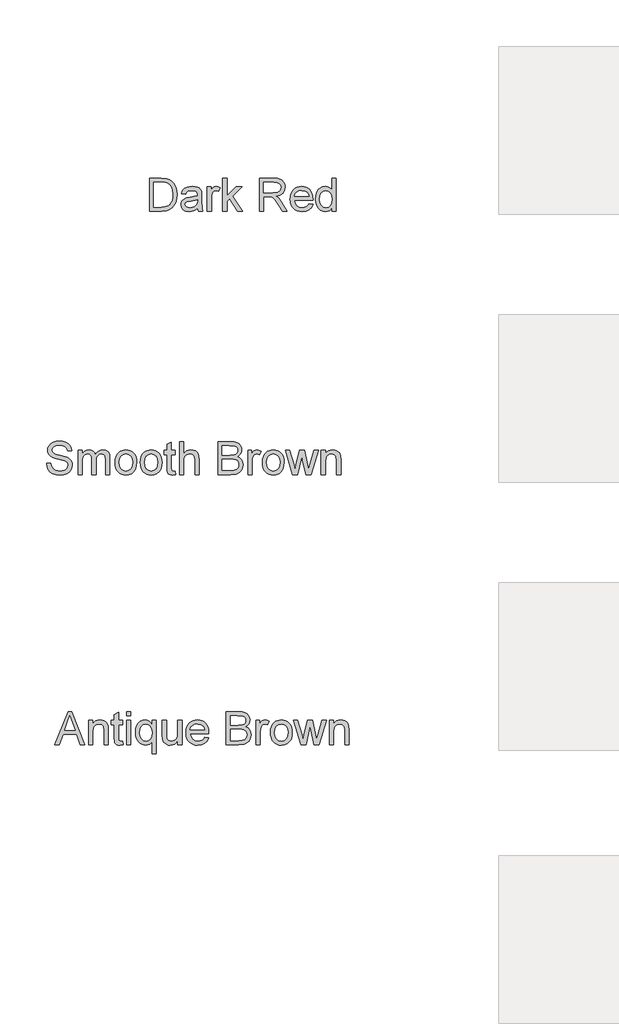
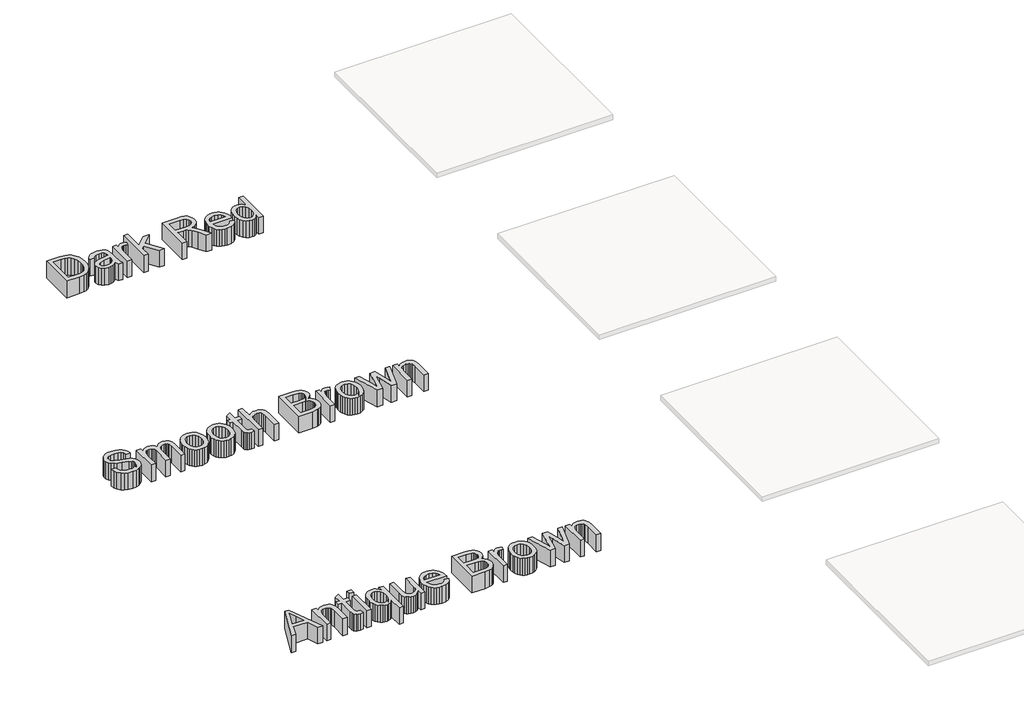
# One storey, part 2 of 6: 3 proxies.
"""IFC4 building model written with IfcOpenShell, lengths in millimetres."""

from ifc_helpers import new_model, si_unit, frame, origin, place, context, project, spatial, polyline, outline, extrude, element, save

model = new_model("IFC4")

# Units and contexts
model_context = context("Model", 3, world=origin())
ifc_project = project(units=[si_unit("LENGTHUNIT", "METRE", prefix="MILLI")], contexts=[model_context])

# Site, building, storey
site = spatial("IfcSite", under=ifc_project)
building = spatial("IfcBuilding", under=site)
storey = spatial("IfcBuildingStorey", under=building, Name="Marley Concrete Interlocking", Elevation=3000.0)

# Proxies
placement = place(None, origin())
element("IfcBuildingElementProxy", 1, Name="600mm Arial", ObjectType="600mm Arial", at=placement, inside=storey, context=model_context, shape_type="SweptSolid", body=[
    extrude(outline(polyline([(-15157.1501694, -6426.6948354), (-15039.2415155, -6131.31022), (-15007.7992078, -6131.31022), (-14889.890554, -6426.6948354), (-14928.9049771, -6426.6948354), (-14962.7270924, -6334.3871431), (-15084.3857463, -6334.3871431), (-15118.1357463, -6426.6948354), (-15157.1501694, -6426.6948354)]), holes=[polyline([(-15070.828054, -6297.4640662), (-14976.2126694, -6297.4640662), (-15002.8232463, -6224.8438739), (-15023.5203617, -6168.233297), (-15041.9097848, -6218.49772), (-15070.828054, -6297.4640662)])]), frame((0.0, 0.0, 3000.0), z_axis=(0.0, 0.0, 1.0), x_axis=(1.0, 0.0, 0.0)), (0.0, 0.0, 1.0), 150.0),
    extrude(outline(polyline([(-14855.0588232, -6426.6948354), (-14855.0588232, -6209.7717585), (-14818.1357463, -6209.7717585), (-14818.1357463, -6240.06022), (-14805.3082223, -6224.7897873), (-14789.9025732, -6213.8823354), (-14771.9187992, -6207.3378643), (-14751.3569001, -6205.1563739), (-14733.1567799, -6206.9141864), (-14716.4891117, -6212.1876239), (-14702.5888713, -6220.3186335), (-14692.6910348, -6230.6491623), (-14681.6213232, -6257.8006046), (-14679.6742078, -6293.49772), (-14679.6742078, -6426.6948354), (-14716.5972848, -6426.6948354), (-14716.5972848, -6298.4736816), (-14720.8520924, -6265.8054123), (-14726.7385107, -6256.0788498), (-14735.8881501, -6248.5337777), (-14747.6159146, -6243.6930325), (-14761.2367078, -6242.0794508), (-14782.8623088, -6245.7032489), (-14801.296804, -6256.5746431), (-14808.6638412, -6265.4493426), (-14813.9260107, -6277.5782489), (-14818.1357463, -6311.5986816), (-14818.1357463, -6426.6948354), (-14855.0588232, -6426.6948354)])), frame((0.0, 0.0, 3000.0), z_axis=(0.0, 0.0, 1.0), x_axis=(1.0, 0.0, 0.0)), (0.0, 0.0, 1.0), 150.0),
    extrude(outline(polyline([(-14550.4434386, -6395.9015662), (-14545.828054, -6427.7765662), (-14573.4482463, -6431.31022), (-14591.1706021, -6429.7777681), (-14604.3857463, -6425.1804123), (-14613.7246886, -6418.0950758), (-14619.8184386, -6409.0986816), (-14623.171804, -6393.6479604), (-14624.2895924, -6367.1996431), (-14624.2895924, -6246.6948354), (-14651.9819001, -6246.6948354), (-14651.9819001, -6209.7717585), (-14624.2895924, -6209.7717585), (-14624.2895924, -6157.0554123), (-14587.3665155, -6135.3486816), (-14587.3665155, -6209.7717585), (-14550.4434386, -6209.7717585), (-14550.4434386, -6246.6948354), (-14587.3665155, -6246.6948354), (-14587.3665155, -6366.1179123), (-14585.4194001, -6385.1563739), (-14579.109304, -6391.8991623), (-14566.5251694, -6394.3871431), (-14550.4434386, -6395.9015662)])), frame((0.0, 0.0, 3000.0), z_axis=(0.0, 0.0, 1.0), x_axis=(1.0, 0.0, 0.0)), (0.0, 0.0, 1.0), 150.0),
    extrude(outline(polyline([(-14513.5203617, -6426.6948354), (-14513.5203617, -6209.7717585), (-14476.5972848, -6209.7717585), (-14476.5972848, -6426.6948354), (-14513.5203617, -6426.6948354)])), frame((0.0, 0.0, 3000.0), z_axis=(0.0, 0.0, 1.0), x_axis=(1.0, 0.0, 0.0)), (0.0, 0.0, 1.0), 150.0),
    extrude(outline(polyline([(-14513.5203617, -6168.233297), (-14513.5203617, -6131.31022), (-14476.5972848, -6131.31022), (-14476.5972848, -6168.233297), (-14513.5203617, -6168.233297)])), frame((0.0, 0.0, 3000.0), z_axis=(0.0, 0.0, 1.0), x_axis=(1.0, 0.0, 0.0)), (0.0, 0.0, 1.0), 150.0),
    extrude(outline(polyline([(-14287.3665155, -6509.7717585), (-14287.3665155, -6397.1275277), (-14297.4085828, -6410.5950758), (-14310.8040155, -6421.5746431), (-14326.3448809, -6428.8763258), (-14342.8232463, -6431.31022), (-14361.0278737, -6429.3878943), (-14377.9254098, -6423.6209171), (-14393.5158545, -6414.0092885), (-14407.7992078, -6400.5530085), (-14419.7252896, -6383.7478703), (-14428.2439194, -6364.0896671), (-14433.3550973, -6341.5783991), (-14435.0588232, -6316.2140662), (-14432.3544963, -6285.294595), (-14424.2415155, -6257.7284893), (-14410.9903136, -6234.9760854), (-14392.8713232, -6218.49772), (-14371.3268521, -6208.4917104), (-14347.7992078, -6205.1563739), (-14329.6081021, -6207.7435133), (-14313.4722848, -6215.5049316), (-14299.3917559, -6228.4406287), (-14287.3665155, -6246.5506046), (-14287.3665155, -6209.7717585), (-14250.4434386, -6209.7717585), (-14250.4434386, -6509.7717585), (-14287.3665155, -6509.7717585)]), holes=[polyline([(-14398.1357463, -6318.233297), (-14393.9800973, -6351.5506046), (-14381.5131501, -6375.3486816), (-14363.2409146, -6389.6275277), (-14341.6694001, -6394.3871431), (-14320.999328, -6389.8619027), (-14303.4121886, -6376.2861816), (-14291.3779338, -6353.4616623), (-14287.3665155, -6321.1900277), (-14291.5942799, -6286.6918306), (-14304.2775732, -6261.9472393), (-14322.6579819, -6247.0463979), (-14343.9770924, -6242.0794508), (-14364.8995684, -6246.7038498), (-14382.3785348, -6260.577047), (-14394.1964434, -6284.2399075), (-14398.1357463, -6318.233297)])]), frame((0.0, 0.0, 3000.0), z_axis=(0.0, 0.0, 1.0), x_axis=(1.0, 0.0, 0.0)), (0.0, 0.0, 1.0), 150.0),
    extrude(outline(polyline([(-14056.5972848, -6426.6948354), (-14056.5972848, -6389.4111816), (-14069.9566598, -6407.7420109), (-14085.515554, -6420.8354604), (-14103.2739674, -6428.6915301), (-14123.2319001, -6431.31022), (-14141.2156742, -6429.4712777), (-14157.9554578, -6423.9544508), (-14171.999929, -6415.6611816), (-14181.8977655, -6405.4929123), (-14192.8953617, -6378.3054123), (-14195.0588232, -6343.9784893), (-14195.0588232, -6209.7717585), (-14158.1357463, -6209.7717585), (-14158.1357463, -6326.5986816), (-14155.9001694, -6364.2429123), (-14150.5185588, -6376.8000037), (-14141.296804, -6386.3462777), (-14128.8478857, -6392.3769268), (-14113.7847848, -6394.3871431), (-14097.8562992, -6392.3318546), (-14082.9554578, -6386.1659893), (-14070.6687992, -6376.4574556), (-14062.5828617, -6363.7741623), (-14058.093679, -6346.4033691), (-14056.5972848, -6322.6323354), (-14056.5972848, -6209.7717585), (-14019.6742078, -6209.7717585), (-14019.6742078, -6426.6948354), (-14056.5972848, -6426.6948354)])), frame((0.0, 0.0, 3000.0), z_axis=(0.0, 0.0, 1.0), x_axis=(1.0, 0.0, 0.0)), (0.0, 0.0, 1.0), 150.0),
    extrude(outline(polyline([(-13817.0299771, -6362.0794508), (-13780.828054, -6366.6948354), (-13793.8719242, -6393.9724796), (-13814.6862271, -6414.3631046), (-13842.8022126, -6427.0734412), (-13877.7511309, -6431.31022), (-13900.6612872, -6429.4825458), (-13921.0744482, -6423.9995229), (-13938.9906141, -6414.8611515), (-13954.4097848, -6402.0674316), (-13966.8091237, -6385.9744328), (-13975.6657944, -6366.9382248), (-13980.9797968, -6344.9588078), (-13982.7511309, -6320.0361816), (-13980.9617679, -6294.2684532), (-13975.593679, -6271.5566143), (-13966.6468641, -6251.9006647), (-13954.1213232, -6235.3006046), (-13938.7427174, -6222.1125037), (-13921.2367078, -6212.6924316), (-13901.6032944, -6207.0403883), (-13879.8424771, -6205.1563739), (-13858.7825311, -6207.0358811), (-13839.7373088, -6212.6744027), (-13822.70681, -6222.0719388), (-13807.6910348, -6235.2284893), (-13795.433673, -6251.7924917), (-13786.6784146, -6271.4123835), (-13781.4252595, -6294.0881647), (-13779.6742078, -6319.8198354), (-13779.890554, -6329.7717585), (-13945.828054, -6329.7717585), (-13939.436828, -6357.4099796), (-13924.5900732, -6377.7284893), (-13903.1627896, -6390.2224796), (-13877.0299771, -6394.3871431), (-13857.3785348, -6392.4580566), (-13840.828054, -6386.670797), (-13827.3785348, -6376.6647873), (-13817.0299771, -6362.0794508)]), holes=[polyline([(-13945.828054, -6292.8486816), (-13816.5972848, -6292.8486816), (-13821.5912751, -6273.34147), (-13831.3809386, -6259.3871431), (-13852.9073809, -6246.4063739), (-13879.9867078, -6242.0794508), (-13904.8755299, -6245.5319748), (-13925.4554578, -6255.889547), (-13939.7613473, -6272.0343787), (-13945.828054, -6292.8486816)])]), frame((0.0, 0.0, 3000.0), z_axis=(0.0, 0.0, 1.0), x_axis=(1.0, 0.0, 0.0)), (0.0, 0.0, 1.0), 150.0),
    extrude(outline(polyline([(-13622.7511309, -6426.6948354), (-13622.7511309, -6131.31022), (-13510.0347848, -6131.31022), (-13479.0341838, -6133.482696), (-13454.8304578, -6140.0001239), (-13436.2787751, -6151.0247633), (-13422.234304, -6166.7188739), (-13413.3911549, -6185.1804123), (-13410.4434386, -6204.5073354), (-13412.9224049, -6222.2927921), (-13420.359304, -6239.014547), (-13432.8082223, -6253.6449556), (-13450.3232463, -6265.1563739), (-13429.4007703, -6276.0818546), (-13413.9410348, -6292.7044508), (-13404.3947607, -6313.9244027), (-13401.2126694, -6338.6419508), (-13403.3851453, -6359.2399075), (-13409.9025732, -6378.34147), (-13419.6291357, -6394.5854604), (-13431.4290155, -6406.6107008), (-13445.8791357, -6415.3186335), (-13463.5564194, -6421.6107008), (-13510.9001694, -6426.6948354), (-13622.7511309, -6426.6948354)]), holes=[polyline([(-13585.828054, -6251.31022), (-13518.4001694, -6251.31022), (-13479.0251694, -6248.1371431), (-13465.2421165, -6242.6653883), (-13455.3352655, -6234.4712777), (-13449.358703, -6223.6810133), (-13447.3665155, -6210.420797), (-13449.2234867, -6197.5482008), (-13454.7944001, -6186.3342585), (-13463.8268521, -6177.5812537), (-13476.0684386, -6172.09147), (-13523.5203617, -6168.233297), (-13585.828054, -6168.233297), (-13585.828054, -6251.31022)]), polyline([(-13585.828054, -6389.7717585), (-13510.1069001, -6389.7717585), (-13482.703054, -6388.3294508), (-13459.5179578, -6380.2885854), (-13444.1573809, -6363.8823354), (-13439.6411549, -6352.2897873), (-13438.1357463, -6339.0025277), (-13439.9025732, -6323.5698354), (-13445.203054, -6310.3006046), (-13454.4608665, -6299.9250037), (-13468.0996886, -6293.1732008), (-13487.4175973, -6289.4682729), (-13513.7126694, -6288.233297), (-13585.828054, -6288.233297), (-13585.828054, -6389.7717585)])]), frame((0.0, 0.0, 3000.0), z_axis=(0.0, 0.0, 1.0), x_axis=(1.0, 0.0, 0.0)), (0.0, 0.0, 1.0), 150.0),
    extrude(outline(polyline([(-13355.0588232, -6426.6948354), (-13355.0588232, -6209.7717585), (-13322.7511309, -6209.7717585), (-13322.7511309, -6241.8631046), (-13310.8160348, -6223.2573354), (-13299.8184386, -6212.295797), (-13288.7847848, -6206.9412296), (-13276.7415155, -6205.1563739), (-13258.3520924, -6208.0049316), (-13239.6742078, -6216.5506046), (-13252.0059386, -6249.6515662), (-13264.9867078, -6243.9724796), (-13277.9674771, -6242.0794508), (-13288.9921165, -6243.9003643), (-13298.8448809, -6249.3631046), (-13306.8046165, -6258.0530085), (-13312.1501694, -6269.5554123), (-13316.6393521, -6290.1804123), (-13318.1357463, -6312.6804123), (-13318.1357463, -6426.6948354), (-13355.0588232, -6426.6948354)])), frame((0.0, 0.0, 3000.0), z_axis=(0.0, 0.0, 1.0), x_axis=(1.0, 0.0, 0.0)), (0.0, 0.0, 1.0), 150.0),
    extrude(outline(polyline([(-13225.828054, -6318.233297), (-13223.8313593, -6290.1398474), (-13217.8412751, -6265.9316143), (-13207.8578016, -6245.6085974), (-13193.8809386, -6229.170797), (-13179.8094242, -6218.6644869), (-13164.2775732, -6211.1599796), (-13147.2853857, -6206.6572753), (-13128.8328617, -6205.1563739), (-13108.4625191, -6206.9840482), (-13090.0437992, -6212.467071), (-13073.5767018, -6221.6054424), (-13059.0612271, -6234.3991623), (-13047.2140215, -6250.4155385), (-13038.7517319, -6269.2218787), (-13033.6743581, -6290.8181828), (-13031.9819001, -6315.2044508), (-13034.9746886, -6352.5061335), (-13043.953054, -6380.9015662), (-13058.655578, -6402.1665902), (-13078.8208424, -6418.077047), (-13102.7721646, -6428.0019268), (-13128.8328617, -6431.31022), (-13149.5006802, -6429.4893066), (-13168.0906742, -6424.0265662), (-13184.6028436, -6414.9219989), (-13199.0371886, -6402.1756046), (-13210.7581922, -6386.0037296), (-13219.1303376, -6366.62272), (-13224.1536249, -6344.0325758), (-13225.828054, -6318.233297)]), holes=[polyline([(-13188.9049771, -6318.1611816), (-13184.6321405, -6351.5776479), (-13171.8136309, -6375.3847393), (-13152.5227655, -6389.6365421), (-13128.8328617, -6394.3871431), (-13105.2511309, -6389.6094989), (-13085.9963232, -6375.2765662), (-13073.1778136, -6351.15397), (-13068.9049771, -6317.0073354), (-13073.2048569, -6284.5644268), (-13086.1044963, -6261.0818546), (-13105.3863473, -6246.8300518), (-13128.8328617, -6242.0794508), (-13152.5227655, -6246.8120229), (-13171.8136309, -6261.0097393), (-13184.6321405, -6284.7627441), (-13188.9049771, -6318.1611816)])]), frame((0.0, 0.0, 3000.0), z_axis=(0.0, 0.0, 1.0), x_axis=(1.0, 0.0, 0.0)), (0.0, 0.0, 1.0), 150.0),
    extrude(outline(polyline([(-12954.4578617, -6426.6948354), (-13020.4434386, -6209.7717585), (-12982.078054, -6209.7717585), (-12944.6501694, -6336.3342585), (-12933.4722848, -6381.5506046), (-12924.3136309, -6337.9929123), (-12894.5299771, -6209.7717585), (-12850.5395924, -6209.7717585), (-12820.9001694, -6337.6323354), (-12812.7511309, -6377.0794508), (-12801.0684386, -6335.4688739), (-12763.5684386, -6209.7717585), (-12725.0588232, -6209.7717585), (-12791.5492078, -6426.6948354), (-12836.1886309, -6426.6948354), (-12864.5299771, -6299.483297), (-12872.7511309, -6259.8198354), (-12909.3136309, -6426.6948354), (-12954.4578617, -6426.6948354)])), frame((0.0, 0.0, 3000.0), z_axis=(0.0, 0.0, 1.0), x_axis=(1.0, 0.0, 0.0)), (0.0, 0.0, 1.0), 150.0),
    extrude(outline(polyline([(-12699.6742078, -6426.6948354), (-12699.6742078, -6209.7717585), (-12662.7511309, -6209.7717585), (-12662.7511309, -6240.06022), (-12649.9236069, -6224.7897873), (-12634.5179578, -6213.8823354), (-12616.5341838, -6207.3378643), (-12595.9722848, -6205.1563739), (-12577.7721646, -6206.9141864), (-12561.1044963, -6212.1876239), (-12547.2042559, -6220.3186335), (-12537.3064194, -6230.6491623), (-12526.2367078, -6257.8006046), (-12524.2895924, -6293.49772), (-12524.2895924, -6426.6948354), (-12561.2126694, -6426.6948354), (-12561.2126694, -6298.4736816), (-12565.4674771, -6265.8054123), (-12571.3538953, -6256.0788498), (-12580.5035348, -6248.5337777), (-12592.2312992, -6243.6930325), (-12605.8520924, -6242.0794508), (-12627.4776934, -6245.7032489), (-12645.9121886, -6256.5746431), (-12653.2792259, -6265.4493426), (-12658.5413953, -6277.5782489), (-12662.7511309, -6311.5986816), (-12662.7511309, -6426.6948354), (-12699.6742078, -6426.6948354)])), frame((0.0, 0.0, 3000.0), z_axis=(0.0, 0.0, 1.0), x_axis=(1.0, 0.0, 0.0)), (0.0, 0.0, 1.0), 150.0),
])
element("IfcBuildingElementProxy", 2, Name="600mm Arial", ObjectType="600mm Arial", at=placement, inside=storey, context=model_context, shape_type="SweptSolid", body=[
    extrude(outline(polyline([(-14309.1097582, -1651.9648917), (-14309.1097582, -1356.5802763), (-14207.2107198, -1356.5802763), (-14154.4943736, -1360.835084), (-14130.9487005, -1369.038209), (-14111.0809121, -1381.9648917), (-14090.6542294, -1404.4648917), (-14076.1049505, -1432.4456609), (-14067.3970178, -1465.366334), (-14064.4943736, -1502.6860455), (-14066.4595178, -1534.3897715), (-14072.3549505, -1562.2894109), (-14081.3333159, -1586.0424157), (-14092.5472582, -1605.3062378), (-14105.4559121, -1620.5135696), (-14119.5184121, -1632.0971032), (-14135.6632438, -1640.6878484), (-14154.8188928, -1646.9168148), (-14202.3068736, -1651.9648917), (-14309.1097582, -1651.9648917)]), holes=[polyline([(-14272.1866813, -1615.0418148), (-14206.8501428, -1615.0418148), (-14179.8249025, -1613.7076802), (-14159.3261044, -1609.7052763), (-14143.8573544, -1603.2689782), (-14131.9222582, -1594.6331609), (-14119.0947342, -1578.6505888), (-14109.4583159, -1557.9624878), (-14103.4276669, -1532.4787138), (-14101.4174505, -1502.1091225), (-14105.3567534, -1461.8687378), (-14117.1746621, -1432.1571994), (-14134.6355996, -1411.7485455), (-14155.503989, -1399.4168148), (-14176.7419698, -1394.9817186), (-14207.8597582, -1393.5033532), (-14272.1866813, -1393.5033532), (-14272.1866813, -1615.0418148)])]), frame((0.0, 0.0, 3000.0), z_axis=(0.0, 0.0, 1.0), x_axis=(1.0, 0.0, 0.0)), (0.0, 0.0, 1.0), 150.0),
    extrude(outline(polyline([(-13879.878989, -1624.272584), (-13897.520215, -1639.3987859), (-13915.6842775, -1649.2966225), (-13934.78584, -1654.7593628), (-13955.2395659, -1656.5802763), (-13986.0959361, -1652.1992667), (-14008.8573544, -1639.0562378), (-14022.8928111, -1619.0983052), (-14027.5712967, -1594.272584), (-14025.8044698, -1578.9660936), (-14020.503989, -1565.0658532), (-14012.3279073, -1553.1668148), (-14001.9342775, -1543.8639302), (-13976.0809121, -1531.7485455), (-13944.1337967, -1526.1956609), (-13906.3813928, -1520.3543148), (-13880.0953352, -1513.5033532), (-13879.878989, -1505.2821994), (-13882.4210563, -1488.803834), (-13890.0472582, -1478.022584), (-13907.1025467, -1470.0177763), (-13930.8645659, -1467.3495071), (-13952.8597582, -1469.1253484), (-13968.2203352, -1474.4528725), (-13978.6950948, -1484.3056369), (-13986.0328352, -1499.6571994), (-14022.9559121, -1495.0418148), (-14016.5466573, -1474.8495071), (-14006.9823544, -1458.9841225), (-13993.3705755, -1446.850709), (-13974.8188928, -1437.8543148), (-13952.12959, -1432.2834013), (-13926.1049505, -1430.4264302), (-13901.144013, -1432.0670552), (-13881.3573544, -1436.9889302), (-13866.4384842, -1444.3897715), (-13856.0809121, -1453.4672955), (-13849.2119217, -1464.6902523), (-13844.7587967, -1478.5273917), (-13842.9559121, -1510.835084), (-13842.9559121, -1556.772584), (-13841.0809121, -1620.9192186), (-13833.7251428, -1651.9648917), (-13870.6482198, -1651.9648917), (-13879.878989, -1624.272584)]), holes=[polyline([(-13879.878989, -1550.4264302), (-13939.4462967, -1561.7485455), (-13971.2131236, -1567.7341225), (-13985.6001428, -1577.4696994), (-13990.6482198, -1591.6764302), (-13987.8988207, -1602.6559975), (-13979.6506236, -1611.6523917), (-13966.0839169, -1617.6559975), (-13947.378989, -1619.6571994), (-13927.5472582, -1617.4486657), (-13910.0232198, -1610.8230648), (-13895.816489, -1601.0604446), (-13885.9366813, -1589.4408532), (-13881.5556717, -1577.4696994), (-13880.0953352, -1560.8831609), (-13879.878989, -1550.4264302)])]), frame((0.0, 0.0, 3000.0), z_axis=(0.0, 0.0, 1.0), x_axis=(1.0, 0.0, 0.0)), (0.0, 0.0, 1.0), 150.0),
    extrude(outline(polyline([(-13792.1866813, -1651.9648917), (-13792.1866813, -1435.0418148), (-13759.878989, -1435.0418148), (-13759.878989, -1467.1331609), (-13747.9438928, -1448.5273917), (-13736.9462967, -1437.5658532), (-13725.9126428, -1432.2112859), (-13713.8693736, -1430.4264302), (-13695.4799505, -1433.2749878), (-13676.8020659, -1441.8206609), (-13689.1337967, -1474.9216225), (-13702.1145659, -1469.2425359), (-13715.0953352, -1467.3495071), (-13726.1199746, -1469.1704205), (-13735.972739, -1474.6331609), (-13743.9324746, -1483.3230648), (-13749.2780275, -1494.8254686), (-13753.7672102, -1515.4504686), (-13755.2636044, -1537.9504686), (-13755.2636044, -1651.9648917), (-13792.1866813, -1651.9648917)])), frame((0.0, 0.0, 3000.0), z_axis=(0.0, 0.0, 1.0), x_axis=(1.0, 0.0, 0.0)), (0.0, 0.0, 1.0), 150.0),
    extrude(outline(polyline([(-13653.7251428, -1651.9648917), (-13653.7251428, -1356.5802763), (-13616.8020659, -1356.5802763), (-13616.8020659, -1515.3062378), (-13534.0136044, -1435.0418148), (-13482.9559121, -1435.0418148), (-13566.753989, -1516.3158532), (-13478.3405275, -1651.9648917), (-13521.4655275, -1651.9648917), (-13593.2203352, -1541.9889302), (-13616.8020659, -1564.8495071), (-13616.8020659, -1651.9648917), (-13653.7251428, -1651.9648917)])), frame((0.0, 0.0, 3000.0), z_axis=(0.0, 0.0, 1.0), x_axis=(1.0, 0.0, 0.0)), (0.0, 0.0, 1.0), 150.0),
    extrude(outline(polyline([(-13326.0328352, -1651.9648917), (-13326.0328352, -1356.5802763), (-13198.7491813, -1356.5802763), (-13164.5394457, -1358.5724638), (-13139.6506236, -1364.5490263), (-13121.4595178, -1375.5826802), (-13107.3429313, -1392.7461417), (-13098.2834361, -1414.0291946), (-13095.2636044, -1437.4216225), (-13100.2666092, -1466.5201802), (-13115.2756236, -1490.6427763), (-13126.6450647, -1500.4730047), (-13140.7413688, -1508.3290744), (-13177.1145659, -1518.1187378), (-13156.128989, -1533.9120071), (-13126.2011044, -1571.9168148), (-13076.9462967, -1651.9648917), (-13119.8549505, -1651.9648917), (-13158.2924505, -1590.7389302), (-13186.0568736, -1550.210084), (-13205.5640852, -1531.0634494), (-13223.1241813, -1524.0321994), (-13244.5424505, -1522.7341225), (-13289.1097582, -1522.7341225), (-13289.1097582, -1651.9648917), (-13326.0328352, -1651.9648917)]), holes=[polyline([(-13289.1097582, -1485.8110455), (-13206.4655275, -1485.8110455), (-13182.7305515, -1484.5039542), (-13164.3140852, -1480.5826802), (-13150.4499025, -1473.7858052), (-13140.3717775, -1463.8519109), (-13134.2329553, -1451.835685), (-13132.1866813, -1438.7918148), (-13136.0899265, -1420.7809975), (-13147.7996621, -1406.2677763), (-13167.9468977, -1396.694459), (-13197.1626428, -1393.5033532), (-13289.1097582, -1393.5033532), (-13289.1097582, -1485.8110455)])]), frame((0.0, 0.0, 3000.0), z_axis=(0.0, 0.0, 1.0), x_axis=(1.0, 0.0, 0.0)), (0.0, 0.0, 1.0), 150.0),
    extrude(outline(polyline([(-12883.3886044, -1587.3495071), (-12847.1866813, -1591.9648917), (-12860.2305515, -1619.2425359), (-12881.0448544, -1639.6331609), (-12909.16084, -1652.3434975), (-12944.1097582, -1656.5802763), (-12967.0199145, -1654.752602), (-12987.4330755, -1649.2695792), (-13005.3492414, -1640.1312078), (-13020.7684121, -1627.3374878), (-13033.167751, -1611.244489), (-13042.0244217, -1592.2082811), (-13047.3384241, -1570.228864), (-13049.1097582, -1545.3062378), (-13047.3203953, -1519.5385095), (-13041.9523063, -1496.8266705), (-13033.0054914, -1477.170721), (-13020.4799505, -1460.5706609), (-13005.1013448, -1447.38256), (-12987.5953352, -1437.9624878), (-12967.9619217, -1432.3104446), (-12946.2011044, -1430.4264302), (-12925.1411585, -1432.3059374), (-12906.0959361, -1437.944459), (-12889.0654373, -1447.3419951), (-12874.0496621, -1460.4985455), (-12861.7923003, -1477.0625479), (-12853.0370419, -1496.6824398), (-12847.7838868, -1519.358221), (-12846.0328352, -1545.0898917), (-12846.2491813, -1555.0418148), (-13012.1866813, -1555.0418148), (-13005.7954553, -1582.6800359), (-12990.9487005, -1602.9985455), (-12969.5214169, -1615.4925359), (-12943.3886044, -1619.6571994), (-12923.7371621, -1617.7281128), (-12907.1866813, -1611.9408532), (-12893.7371621, -1601.9348436), (-12883.3886044, -1587.3495071)]), holes=[polyline([(-13012.1866813, -1518.1187378), (-12882.9559121, -1518.1187378), (-12887.9499025, -1498.6115263), (-12897.7395659, -1484.6571994), (-12919.2660082, -1471.6764302), (-12946.3453352, -1467.3495071), (-12971.2341573, -1470.8020311), (-12991.8140852, -1481.1596032), (-13006.1199746, -1497.304435), (-13012.1866813, -1518.1187378)])]), frame((0.0, 0.0, 3000.0), z_axis=(0.0, 0.0, 1.0), x_axis=(1.0, 0.0, 0.0)), (0.0, 0.0, 1.0), 150.0),
    extrude(outline(polyline([(-12675.2636044, -1651.9648917), (-12675.2636044, -1617.1331609), (-12686.3107799, -1634.3912739), (-12699.6926909, -1646.7184975), (-12715.4093376, -1654.1148316), (-12733.4607198, -1656.5802763), (-12757.3309121, -1653.0105648), (-12779.1818736, -1642.3014302), (-12797.6794698, -1625.2010696), (-12811.4895659, -1602.4576802), (-12820.0893255, -1574.990733), (-12822.9559121, -1543.7196994), (-12820.3146861, -1512.8362859), (-12812.3910082, -1484.9456609), (-12799.1938928, -1461.6343628), (-12780.7323544, -1444.4889302), (-12758.4036284, -1433.9420552), (-12733.6049505, -1430.4264302), (-12715.5400467, -1432.9414542), (-12699.566489, -1440.4865263), (-12686.0268255, -1452.0520311), (-12675.2636044, -1466.6283532), (-12675.2636044, -1356.5802763), (-12638.3405275, -1356.5802763), (-12638.3405275, -1651.9648917), (-12675.2636044, -1651.9648917)]), holes=[polyline([(-12786.0328352, -1543.5754686), (-12781.8681717, -1576.9739061), (-12769.3741813, -1600.7269109), (-12751.2191332, -1614.9246273), (-12730.0712967, -1619.6571994), (-12708.9324746, -1615.1409734), (-12691.2371621, -1601.5922955), (-12679.2569938, -1578.7587619), (-12675.2636044, -1546.3879686), (-12679.3291092, -1510.9973436), (-12691.5256236, -1486.460084), (-12709.6716573, -1472.1271513), (-12731.5857198, -1467.3495071), (-12752.9499025, -1471.9378484), (-12770.4559121, -1485.7028725), (-12782.1386044, -1509.3477042), (-12786.0328352, -1543.5754686)])]), frame((0.0, 0.0, 3000.0), z_axis=(0.0, 0.0, 1.0), x_axis=(1.0, 0.0, 0.0)), (0.0, 0.0, 1.0), 150.0),
])
element("IfcBuildingElementProxy", 3, Name="600mm Arial", ObjectType="600mm Arial", at=placement, inside=storey, context=model_context, shape_type="SweptSolid", body=[
    extrude(outline(polyline([(-15232.4022779, -3908.0512446), (-15195.479201, -3908.0512446), (-15191.2424222, -3928.5410283), (-15183.5801625, -3945.0103792), (-15171.6270375, -3958.0812927), (-15154.5176625, -3968.3757638), (-15133.604201, -3975.0554513), (-15110.2388164, -3977.2820138), (-15089.6679029, -3975.5963167), (-15071.6570856, -3970.5392254), (-15057.0627347, -3962.5344177), (-15046.7412202, -3952.0055715), (-15040.6023981, -3939.9172302), (-15038.5561241, -3927.2339369), (-15040.088576, -3914.8751629), (-15044.6859318, -3904.1930715), (-15054.0248741, -3895.0794898), (-15069.7820856, -3887.4262446), (-15123.5441048, -3873.3276869), (-15158.8355712, -3863.997759), (-15181.416701, -3855.1185523), (-15199.7971097, -3842.6966773), (-15212.822951, -3827.6425908), (-15220.5843693, -3810.2808119), (-15223.1715087, -3790.93586), (-15219.9713885, -3769.310259), (-15210.3710279, -3749.1449946), (-15194.6228308, -3732.0536484), (-15172.979201, -3719.6498023), (-15146.9996337, -3712.1047302), (-15118.2436241, -3709.5897061), (-15087.0897779, -3712.2219177), (-15059.8301625, -3720.1185523), (-15037.4383356, -3733.1173504), (-15020.8878548, -3751.0560523), (-15010.4130952, -3772.8168696), (-15006.2484318, -3797.2820138), (-15043.1715087, -3797.2820138), (-15049.9503548, -3775.2507638), (-15064.0849702, -3759.3493215), (-15086.1703068, -3749.7219177), (-15116.8013164, -3746.5127831), (-15148.1534798, -3749.68586), (-15169.6618933, -3759.2050908), (-15182.1017972, -3773.2135042), (-15186.2484318, -3789.8541292), (-15183.3097298, -3804.0428311), (-15174.4936241, -3815.4550908), (-15153.6522779, -3825.6594177), (-15114.2051625, -3836.0800908), (-15048.8686241, -3854.6137446), (-15027.8199462, -3868.0091773), (-15013.135451, -3884.5416292), (-15004.5086481, -3904.0308119), (-15001.6330472, -3926.2964369), (-15004.9413404, -3949.0578552), (-15014.8662202, -3970.46711), (-15031.0020375, -3988.8925908), (-15052.9431433, -4002.7026869), (-15079.3283597, -4011.3294898), (-15108.7965087, -4014.2050908), (-15144.9713885, -4011.1041292), (-15174.7460279, -4001.8012446), (-15198.462975, -3986.2603792), (-15216.4647779, -3964.4454754), (-15228.0212683, -3937.8709561), (-15232.4022779, -3908.0512446)])), frame((0.0, 0.0, 3000.0), z_axis=(0.0, 0.0, 1.0), x_axis=(1.0, 0.0, 0.0)), (0.0, 0.0, 1.0), 150.0),
    extrude(outline(polyline([(-14950.8638164, -4009.5897061), (-14950.8638164, -3792.6666292), (-14913.9407395, -3792.6666292), (-14913.9407395, -3828.3637446), (-14902.8349702, -3811.966509), (-14888.5561241, -3799.1209561), (-14871.5909798, -3790.8186725), (-14852.4263164, -3788.0512446), (-14831.8914606, -3790.872759), (-14815.4311241, -3799.3373023), (-14803.135451, -3812.8859802), (-14795.0945856, -3830.9598984), (-14781.636052, -3812.1873624), (-14766.2844895, -3798.7784081), (-14749.0398981, -3790.7330355), (-14729.9022779, -3788.0512446), (-14702.1468693, -3792.513384), (-14681.6210279, -3805.8998023), (-14668.9377347, -3828.5710763), (-14664.7099702, -3860.8877831), (-14664.7099702, -4009.5897061), (-14701.6330472, -4009.5897061), (-14701.6330472, -3876.7531677), (-14705.0585279, -3845.9238408), (-14709.8722298, -3837.4232398), (-14717.4623741, -3830.7435523), (-14727.2249943, -3826.4166292), (-14738.5561241, -3824.9743215), (-14758.5591289, -3828.670235), (-14774.8662202, -3839.7579754), (-14785.7105712, -3858.9947542), (-14789.3253548, -3887.1377831), (-14789.3253548, -4009.5897061), (-14826.2484318, -4009.5897061), (-14826.2484318, -3872.6425908), (-14828.38485, -3851.7651869), (-14834.7941048, -3836.87336), (-14846.0711481, -3827.9490811), (-14862.8109318, -3824.9743215), (-14877.0356914, -3826.9574946), (-14890.1426625, -3832.9070138), (-14900.9599702, -3842.6786484), (-14908.3157395, -3856.1281677), (-14912.5344895, -3874.7880234), (-14913.9407395, -3900.1906677), (-14913.9407395, -4009.5897061), (-14950.8638164, -4009.5897061)])), frame((0.0, 0.0, 3000.0), z_axis=(0.0, 0.0, 1.0), x_axis=(1.0, 0.0, 0.0)), (0.0, 0.0, 1.0), 150.0),
    extrude(outline(polyline([(-14618.5561241, -3901.1281677), (-14616.5594294, -3873.0347182), (-14610.5693452, -3848.826485), (-14600.5858717, -3828.5034682), (-14586.6090087, -3812.0656677), (-14572.5374943, -3801.5593576), (-14557.0056433, -3794.0548504), (-14540.0134558, -3789.552146), (-14521.5609318, -3788.0512446), (-14501.1905892, -3789.8789189), (-14482.7718693, -3795.3619417), (-14466.3047719, -3804.5003131), (-14451.7892972, -3817.2940331), (-14439.9420916, -3833.3104093), (-14431.479802, -3852.1167494), (-14426.4024282, -3873.7130535), (-14424.7099702, -3898.0993215), (-14427.7027587, -3935.4010042), (-14436.6811241, -3963.7964369), (-14451.3836481, -3985.0614609), (-14471.5489125, -4000.9719177), (-14495.5002347, -4010.8967975), (-14521.5609318, -4014.2050908), (-14542.2287503, -4012.3841773), (-14560.8187443, -4006.9214369), (-14577.3309137, -3997.8168696), (-14591.7652587, -3985.0704754), (-14603.4862623, -3968.8986004), (-14611.8584077, -3949.5175908), (-14616.881695, -3926.9274465), (-14618.5561241, -3901.1281677)]), holes=[polyline([(-14581.6330472, -3901.0560523), (-14577.3602106, -3934.4725186), (-14564.541701, -3958.27961), (-14545.2508356, -3972.5314129), (-14521.5609318, -3977.2820138), (-14497.979201, -3972.5043696), (-14478.7243933, -3958.1714369), (-14465.9058837, -3934.0488408), (-14461.6330472, -3899.9022061), (-14465.932927, -3867.4592975), (-14478.8325664, -3843.9767254), (-14498.1144173, -3829.7249225), (-14521.5609318, -3824.9743215), (-14545.2508356, -3829.7068936), (-14564.541701, -3843.90461), (-14577.3602106, -3867.6576148), (-14581.6330472, -3901.0560523)])]), frame((0.0, 0.0, 3000.0), z_axis=(0.0, 0.0, 1.0), x_axis=(1.0, 0.0, 0.0)), (0.0, 0.0, 1.0), 150.0),
    extrude(outline(polyline([(-14392.4022779, -3901.1281677), (-14390.4055832, -3873.0347182), (-14384.4154991, -3848.826485), (-14374.4320255, -3828.5034682), (-14360.4551625, -3812.0656677), (-14346.3836481, -3801.5593576), (-14330.8517972, -3794.0548504), (-14313.8596097, -3789.552146), (-14295.4070856, -3788.0512446), (-14275.0367431, -3789.8789189), (-14256.6180231, -3795.3619417), (-14240.1509258, -3804.5003131), (-14225.635451, -3817.2940331), (-14213.7882455, -3833.3104093), (-14205.3259558, -3852.1167494), (-14200.248582, -3873.7130535), (-14198.5561241, -3898.0993215), (-14201.5489125, -3935.4010042), (-14210.5272779, -3963.7964369), (-14225.229802, -3985.0614609), (-14245.3950664, -4000.9719177), (-14269.3463885, -4010.8967975), (-14295.4070856, -4014.2050908), (-14316.0749041, -4012.3841773), (-14334.6648981, -4006.9214369), (-14351.1770676, -3997.8168696), (-14365.6114125, -3985.0704754), (-14377.3324161, -3968.8986004), (-14385.7045616, -3949.5175908), (-14390.7278488, -3926.9274465), (-14392.4022779, -3901.1281677)]), holes=[polyline([(-14355.479201, -3901.0560523), (-14351.2063645, -3934.4725186), (-14338.3878548, -3958.27961), (-14319.0969895, -3972.5314129), (-14295.4070856, -3977.2820138), (-14271.8253548, -3972.5043696), (-14252.5705472, -3958.1714369), (-14239.7520375, -3934.0488408), (-14235.479201, -3899.9022061), (-14239.7790808, -3867.4592975), (-14252.6787202, -3843.9767254), (-14271.9605712, -3829.7249225), (-14295.4070856, -3824.9743215), (-14319.0969895, -3829.7068936), (-14338.3878548, -3843.90461), (-14351.2063645, -3867.6576148), (-14355.479201, -3901.0560523)])]), frame((0.0, 0.0, 3000.0), z_axis=(0.0, 0.0, 1.0), x_axis=(1.0, 0.0, 0.0)), (0.0, 0.0, 1.0), 150.0),
    extrude(outline(polyline([(-14078.5561241, -3978.7964369), (-14073.9407395, -4010.6714369), (-14101.5609318, -4014.2050908), (-14119.2832875, -4012.6726388), (-14132.4984318, -4008.0752831), (-14141.8373741, -4000.9899465), (-14147.9311241, -3991.9935523), (-14151.2844895, -3976.5428311), (-14152.4022779, -3950.0945138), (-14152.4022779, -3829.5897061), (-14180.0945856, -3829.5897061), (-14180.0945856, -3792.6666292), (-14152.4022779, -3792.6666292), (-14152.4022779, -3739.9502831), (-14115.479201, -3718.2435523), (-14115.479201, -3792.6666292), (-14078.5561241, -3792.6666292), (-14078.5561241, -3829.5897061), (-14115.479201, -3829.5897061), (-14115.479201, -3949.0127831), (-14113.5320856, -3968.0512446), (-14107.2219895, -3974.7940331), (-14094.6378548, -3977.2820138), (-14078.5561241, -3978.7964369)])), frame((0.0, 0.0, 3000.0), z_axis=(0.0, 0.0, 1.0), x_axis=(1.0, 0.0, 0.0)), (0.0, 0.0, 1.0), 150.0),
    extrude(outline(polyline([(-14041.6330472, -4009.5897061), (-14041.6330472, -3714.2050908), (-14004.7099702, -3714.2050908), (-14004.7099702, -3822.81086), (-13991.1477707, -3807.6035283), (-13975.9179029, -3796.7411484), (-13959.0203669, -3790.2237206), (-13940.4551625, -3788.0512446), (-13918.1534798, -3790.4220379), (-13898.9888164, -3797.5344177), (-13883.8986722, -3808.8294898), (-13873.8205472, -3823.74836), (-13868.1414606, -3844.2471581), (-13866.2484318, -3872.2820138), (-13866.2484318, -4009.5897061), (-13903.1715087, -4009.5897061), (-13903.1715087, -3876.1041292), (-13906.1102106, -3852.9911484), (-13914.9263164, -3837.1618215), (-13929.1330472, -3828.0211965), (-13948.2436241, -3824.9743215), (-13963.8475904, -3827.02961), (-13978.4960279, -3833.1954754), (-13990.6294414, -3842.8769658), (-13998.6883356, -3855.4791292), (-14003.2045616, -3872.2279273), (-14004.7099702, -3894.3493215), (-14004.7099702, -4009.5897061), (-14041.6330472, -4009.5897061)])), frame((0.0, 0.0, 3000.0), z_axis=(0.0, 0.0, 1.0), x_axis=(1.0, 0.0, 0.0)), (0.0, 0.0, 1.0), 150.0),
    extrude(outline(polyline([(-13695.479201, -4009.5897061), (-13695.479201, -3714.2050908), (-13582.7628548, -3714.2050908), (-13551.7622539, -3716.3775667), (-13527.5585279, -3722.8949946), (-13509.0068452, -3733.919634), (-13494.9623741, -3749.6137446), (-13486.119225, -3768.0752831), (-13483.1715087, -3787.4022061), (-13485.650475, -3805.1876629), (-13493.0873741, -3821.9094177), (-13505.5362923, -3836.5398263), (-13523.0513164, -3848.0512446), (-13502.1288404, -3858.9767254), (-13486.6691048, -3875.5993215), (-13477.1228308, -3896.8192734), (-13473.9407395, -3921.5368215), (-13476.1132154, -3942.1347783), (-13482.6306433, -3961.2363408), (-13492.3572058, -3977.4803311), (-13504.1570856, -3989.5055715), (-13518.6072058, -3998.2135042), (-13536.2844895, -4004.5055715), (-13583.6282395, -4009.5897061), (-13695.479201, -4009.5897061)]), holes=[polyline([(-13658.5561241, -3834.2050908), (-13591.1282395, -3834.2050908), (-13551.7532395, -3831.0320138), (-13537.9701866, -3825.560259), (-13528.0633356, -3817.3661484), (-13522.0867731, -3806.575884), (-13520.0945856, -3793.3156677), (-13521.9515568, -3780.4430715), (-13527.5224702, -3769.2291292), (-13536.5549222, -3760.4761244), (-13548.7965087, -3754.9863408), (-13596.2484318, -3751.1281677), (-13658.5561241, -3751.1281677), (-13658.5561241, -3834.2050908)]), polyline([(-13658.5561241, -3972.6666292), (-13582.8349702, -3972.6666292), (-13555.4311241, -3971.2243215), (-13532.2460279, -3963.1834561), (-13516.885451, -3946.7772061), (-13512.369225, -3935.1846581), (-13510.8638164, -3921.8973984), (-13512.6306433, -3906.4647061), (-13517.9311241, -3893.1954754), (-13527.1889366, -3882.8198744), (-13540.8277587, -3876.0680715), (-13560.1456673, -3872.3631436), (-13586.4407395, -3871.1281677), (-13658.5561241, -3871.1281677), (-13658.5561241, -3972.6666292)])]), frame((0.0, 0.0, 3000.0), z_axis=(0.0, 0.0, 1.0), x_axis=(1.0, 0.0, 0.0)), (0.0, 0.0, 1.0), 150.0),
    extrude(outline(polyline([(-13427.7868933, -4009.5897061), (-13427.7868933, -3792.6666292), (-13395.479201, -3792.6666292), (-13395.479201, -3824.7579754), (-13383.5441048, -3806.1522061), (-13372.5465087, -3795.1906677), (-13361.5128548, -3789.8361004), (-13349.4695856, -3788.0512446), (-13331.0801625, -3790.8998023), (-13312.4022779, -3799.4454754), (-13324.7340087, -3832.5464369), (-13337.7147779, -3826.8673504), (-13350.6955472, -3824.9743215), (-13361.7201866, -3826.795235), (-13371.572951, -3832.2579754), (-13379.5326866, -3840.9478792), (-13384.8782395, -3852.4502831), (-13389.3674222, -3873.0752831), (-13390.8638164, -3895.5752831), (-13390.8638164, -4009.5897061), (-13427.7868933, -4009.5897061)])), frame((0.0, 0.0, 3000.0), z_axis=(0.0, 0.0, 1.0), x_axis=(1.0, 0.0, 0.0)), (0.0, 0.0, 1.0), 150.0),
    extrude(outline(polyline([(-13298.5561241, -3901.1281677), (-13296.5594294, -3873.0347182), (-13290.5693452, -3848.826485), (-13280.5858717, -3828.5034682), (-13266.6090087, -3812.0656677), (-13252.5374943, -3801.5593576), (-13237.0056433, -3794.0548504), (-13220.0134558, -3789.552146), (-13201.5609318, -3788.0512446), (-13181.1905892, -3789.8789189), (-13162.7718693, -3795.3619417), (-13146.3047719, -3804.5003131), (-13131.7892972, -3817.2940331), (-13119.9420916, -3833.3104093), (-13111.479802, -3852.1167494), (-13106.4024282, -3873.7130535), (-13104.7099702, -3898.0993215), (-13107.7027587, -3935.4010042), (-13116.6811241, -3963.7964369), (-13131.3836481, -3985.0614609), (-13151.5489125, -4000.9719177), (-13175.5002347, -4010.8967975), (-13201.5609318, -4014.2050908), (-13222.2287503, -4012.3841773), (-13240.8187443, -4006.9214369), (-13257.3309137, -3997.8168696), (-13271.7652587, -3985.0704754), (-13283.4862623, -3968.8986004), (-13291.8584077, -3949.5175908), (-13296.881695, -3926.9274465), (-13298.5561241, -3901.1281677)]), holes=[polyline([(-13261.6330472, -3901.0560523), (-13257.3602106, -3934.4725186), (-13244.541701, -3958.27961), (-13225.2508356, -3972.5314129), (-13201.5609318, -3977.2820138), (-13177.979201, -3972.5043696), (-13158.7243933, -3958.1714369), (-13145.9058837, -3934.0488408), (-13141.6330472, -3899.9022061), (-13145.932927, -3867.4592975), (-13158.8325664, -3843.9767254), (-13178.1144173, -3829.7249225), (-13201.5609318, -3824.9743215), (-13225.2508356, -3829.7068936), (-13244.541701, -3843.90461), (-13257.3602106, -3867.6576148), (-13261.6330472, -3901.0560523)])]), frame((0.0, 0.0, 3000.0), z_axis=(0.0, 0.0, 1.0), x_axis=(1.0, 0.0, 0.0)), (0.0, 0.0, 1.0), 150.0),
    extrude(outline(polyline([(-13027.1859318, -4009.5897061), (-13093.1715087, -3792.6666292), (-13054.8061241, -3792.6666292), (-13017.3782395, -3919.2291292), (-13006.2003548, -3964.4454754), (-12997.041701, -3920.8877831), (-12967.2580472, -3792.6666292), (-12923.2676625, -3792.6666292), (-12893.6282395, -3920.5272061), (-12885.479201, -3959.9743215), (-12873.7965087, -3918.3637446), (-12836.2965087, -3792.6666292), (-12797.7868933, -3792.6666292), (-12864.2772779, -4009.5897061), (-12908.916701, -4009.5897061), (-12937.2580472, -3882.3781677), (-12945.479201, -3842.7147061), (-12982.041701, -4009.5897061), (-13027.1859318, -4009.5897061)])), frame((0.0, 0.0, 3000.0), z_axis=(0.0, 0.0, 1.0), x_axis=(1.0, 0.0, 0.0)), (0.0, 0.0, 1.0), 150.0),
    extrude(outline(polyline([(-12772.4022779, -4009.5897061), (-12772.4022779, -3792.6666292), (-12735.479201, -3792.6666292), (-12735.479201, -3822.9550908), (-12722.651677, -3807.6846581), (-12707.2460279, -3796.7772061), (-12689.2622539, -3790.232735), (-12668.7003548, -3788.0512446), (-12650.5002347, -3789.8090571), (-12633.8325664, -3795.0824946), (-12619.932326, -3803.2135042), (-12610.0344895, -3813.5440331), (-12598.9647779, -3840.6954754), (-12597.0176625, -3876.3925908), (-12597.0176625, -4009.5897061), (-12633.9407395, -4009.5897061), (-12633.9407395, -3881.3685523), (-12638.1955472, -3848.7002831), (-12644.0819654, -3838.9737206), (-12653.2316048, -3831.4286484), (-12664.9593693, -3826.5879033), (-12678.5801625, -3824.9743215), (-12700.2057635, -3828.5981196), (-12718.6402587, -3839.4695138), (-12726.007296, -3848.3442134), (-12731.2694654, -3860.4731196), (-12735.479201, -3894.4935523), (-12735.479201, -4009.5897061), (-12772.4022779, -4009.5897061)])), frame((0.0, 0.0, 3000.0), z_axis=(0.0, 0.0, 1.0), x_axis=(1.0, 0.0, 0.0)), (0.0, 0.0, 1.0), 150.0),
])

save(model, "model.ifc")
